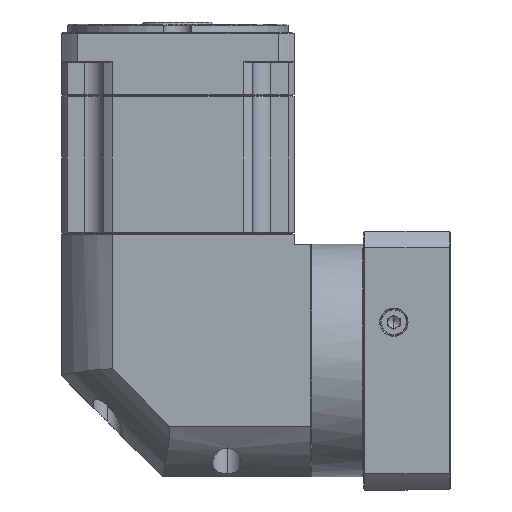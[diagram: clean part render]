
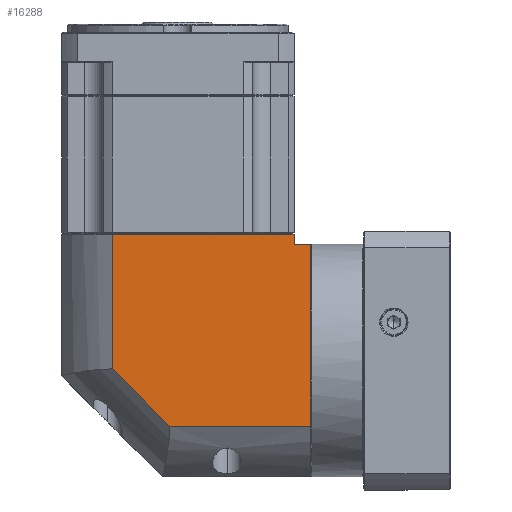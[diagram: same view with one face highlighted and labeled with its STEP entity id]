
A CAD part, left-side view. The second image highlights one B-rep face of the part: STEP entity #16288.
In plain terms, the highlighted planar face has unit normal (-1, 0, 0).
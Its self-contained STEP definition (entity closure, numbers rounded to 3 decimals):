
#1707 = VERTEX_POINT ( 'NONE', #36693 ) ;
#5165 = CARTESIAN_POINT ( 'NONE',  ( -247.009, -108.35, 0.675 ) ) ;
#8600 = LINE ( 'NONE', #69826, #43015 ) ;
#9987 = DIRECTION ( 'NONE',  ( 0., 1., 0. ) ) ;
#14703 = ORIENTED_EDGE ( 'NONE', *, *, #49860, .F. ) ;
#15994 = VECTOR ( 'NONE', #135133, 1000. ) ;
#16288 = ADVANCED_FACE ( 'NONE', ( #160535 ), #113178, .F. ) ;
#18473 = VERTEX_POINT ( 'NONE', #5165 ) ;
#20319 = VECTOR ( 'NONE', #108403, 1000. ) ;
#21596 = VECTOR ( 'NONE', #43969, 1000. ) ;
#24120 = LINE ( 'NONE', #148215, #15994 ) ;
#29080 = EDGE_CURVE ( 'NONE', #54983, #165018, #39706, .T. ) ;
#33320 = ORIENTED_EDGE ( 'NONE', *, *, #78494, .F. ) ;
#34747 = CARTESIAN_POINT ( 'NONE',  ( -247.009, -99.95, 90.575 ) ) ;
#36693 = CARTESIAN_POINT ( 'NONE',  ( -247.009, -10.05, 29.013 ) ) ;
#38857 = EDGE_CURVE ( 'NONE', #54983, #18473, #76213, .T. ) ;
#39706 = LINE ( 'NONE', #134283, #135104 ) ;
#41698 = VECTOR ( 'NONE', #48428, 1000. ) ;
#43015 = VECTOR ( 'NONE', #70388, 1000. ) ;
#43969 = DIRECTION ( 'NONE',  ( 0., 1., 0. ) ) ;
#46481 = AXIS2_PLACEMENT_3D ( 'NONE', #165319, #87600, #9987 ) ;
#47998 = CARTESIAN_POINT ( 'NONE',  ( -247.009, -10.05, 95.575 ) ) ;
#48153 = VERTEX_POINT ( 'NONE', #63981 ) ;
#48428 = DIRECTION ( 'NONE',  ( 0., 0., -1. ) ) ;
#49860 = EDGE_CURVE ( 'NONE', #18473, #48153, #90572, .T. ) ;
#54983 = VERTEX_POINT ( 'NONE', #92121 ) ;
#63981 = CARTESIAN_POINT ( 'NONE',  ( -247.009, -38.388, 0.675 ) ) ;
#69826 = CARTESIAN_POINT ( 'NONE',  ( -247.009, -99.95, -24.425 ) ) ;
#70388 = DIRECTION ( 'NONE',  ( 0., 0., 1. ) ) ;
#73045 = EDGE_CURVE ( 'NONE', #1707, #155418, #82809, .T. ) ;
#74812 = ORIENTED_EDGE ( 'NONE', *, *, #146599, .F. ) ;
#76213 = LINE ( 'NONE', #139297, #41698 ) ;
#78201 = CARTESIAN_POINT ( 'NONE',  ( -247.009, -10.05, 102.075 ) ) ;
#78494 = EDGE_CURVE ( 'NONE', #155418, #114113, #158294, .T. ) ;
#78729 = VECTOR ( 'NONE', #104890, 1000. ) ;
#82809 = LINE ( 'NONE', #78201, #78729 ) ;
#87600 = DIRECTION ( 'NONE',  ( 1., 0., 0. ) ) ;
#90572 = LINE ( 'NONE', #95041, #21596 ) ;
#92121 = CARTESIAN_POINT ( 'NONE',  ( -247.009, -108.35, 90.575 ) ) ;
#95041 = CARTESIAN_POINT ( 'NONE',  ( -247.009, 15.05, 0.675 ) ) ;
#97067 = EDGE_CURVE ( 'NONE', #165018, #114113, #8600, .T. ) ;
#98315 = ORIENTED_EDGE ( 'NONE', *, *, #29080, .T. ) ;
#104875 = ORIENTED_EDGE ( 'NONE', *, *, #97067, .T. ) ;
#104890 = DIRECTION ( 'NONE',  ( 0., 0., 1. ) ) ;
#108403 = DIRECTION ( 'NONE',  ( 0., -1., 0. ) ) ;
#113178 = PLANE ( 'NONE',  #46481 ) ;
#114113 = VERTEX_POINT ( 'NONE', #122375 ) ;
#116573 = EDGE_LOOP ( 'NONE', ( #144489, #74812, #14703, #135612, #98315, #104875, #33320 ) ) ;
#120930 = CARTESIAN_POINT ( 'NONE',  ( -247.009, 15.05, 95.575 ) ) ;
#122375 = CARTESIAN_POINT ( 'NONE',  ( -247.009, -99.95, 95.575 ) ) ;
#134283 = CARTESIAN_POINT ( 'NONE',  ( -247.009, -99.95, 90.575 ) ) ;
#135104 = VECTOR ( 'NONE', #147326, 1000. ) ;
#135133 = DIRECTION ( 'NONE',  ( 0., 0.707, 0.707 ) ) ;
#135612 = ORIENTED_EDGE ( 'NONE', *, *, #38857, .F. ) ;
#139297 = CARTESIAN_POINT ( 'NONE',  ( -247.009, -108.35, 102.075 ) ) ;
#144489 = ORIENTED_EDGE ( 'NONE', *, *, #73045, .F. ) ;
#146599 = EDGE_CURVE ( 'NONE', #48153, #1707, #24120, .T. ) ;
#147326 = DIRECTION ( 'NONE',  ( 0., 1., 0. ) ) ;
#148215 = CARTESIAN_POINT ( 'NONE',  ( -247.009, -38.388, 0.675 ) ) ;
#155418 = VERTEX_POINT ( 'NONE', #47998 ) ;
#158294 = LINE ( 'NONE', #120930, #20319 ) ;
#160535 = FACE_OUTER_BOUND ( 'NONE', #116573, .T. ) ;
#165018 = VERTEX_POINT ( 'NONE', #34747 ) ;
#165319 = CARTESIAN_POINT ( 'NONE',  ( -247.009, 15.05, 102.075 ) ) ;
